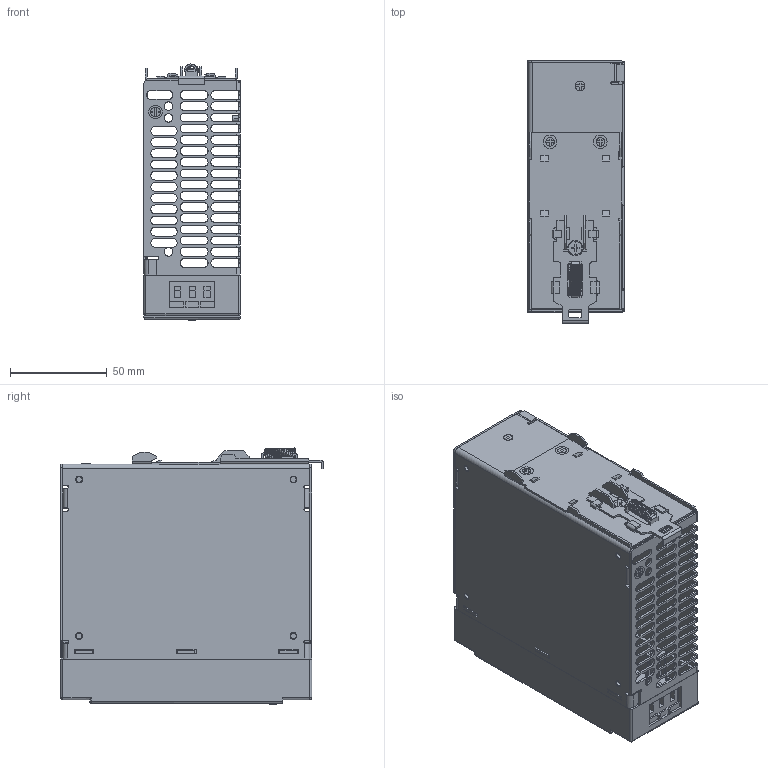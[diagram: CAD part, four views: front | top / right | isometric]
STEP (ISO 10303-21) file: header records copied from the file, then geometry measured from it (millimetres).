
FILE_DESCRIPTION((''),'2;1');
FILE_NAME('IS-180-1_ASM','2020-06-16T',('Dell'),(''),'PRO/ENGINEER BY PARAMETRIC TECHNOLOGY CORPORATION, 2010280','PRO/ENGINEER BY PARAMETRIC TECHNOLOGY CORPORATION, 2010280','');
FILE_SCHEMA(('AUTOMOTIVE_DESIGN { 1 2 10303 214 0 1 1 1 }'));
Products named in the file (21): IS-180-CASE; IS180-CASE1; IS180-COVER; IS180-DAOGUI; IS180-DAOGUI1; IS180-TANHUANG; IS180-3MM; IS180-5MM; IS180-DUANZI; IS180-DUANZI1; IS180-LUOSI; IS180-WENZI; WENZI-; IS180-LED; DCLOW; DCOK; V-ADJ; L; N; IS180-JIEDI; IS-180-1_ASM
Assembly tree (30 placements, depth 2):
  IS-180-1_ASM
    IS-180-CASE
    IS180-CASE1
    IS180-COVER
    IS180-DAOGUI
    IS180-DAOGUI1
    IS180-TANHUANG
    IS180-3MM  x5
    IS180-5MM  x3
    IS180-DUANZI
    IS180-DUANZI1
    IS180-LUOSI  x2
    IS180-WENZI  x2
    WENZI-  x2
    IS180-LED  x2
    DCLOW
    DCOK
    V-ADJ
    L
    N
    IS180-JIEDI
Bounding box: 50.4 x 136.16 x 132.62 mm (x, y, z)
Volume: 113133.6 mm3; surface area: 128031.4 mm2
Topology: 44 solids, 44 shells, 2461 faces, 7091 edges, 4697 vertices
Faces by surface type: plane 1730, cylinder 690, cone 20, sphere 11, bspline 8, torus 2
Entity records: 93439 total; most frequent: CARTESIAN_POINT 20161, ORIENTED_EDGE 13274, DIRECTION 12586, EDGE_CURVE 6637, VECTOR 5262, LINE 5262, VERTEX_POINT 4399, AXIS2_PLACEMENT_3D 3662
